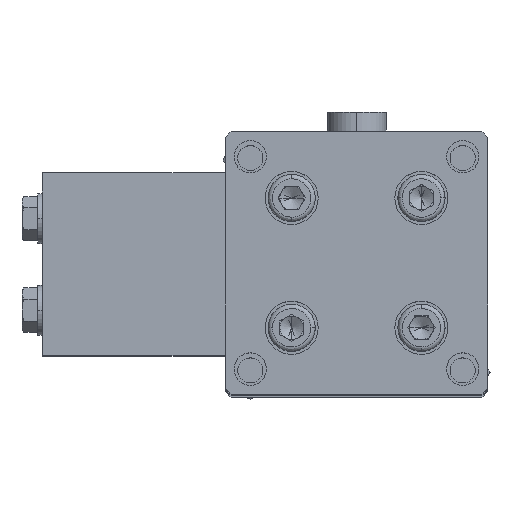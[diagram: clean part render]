
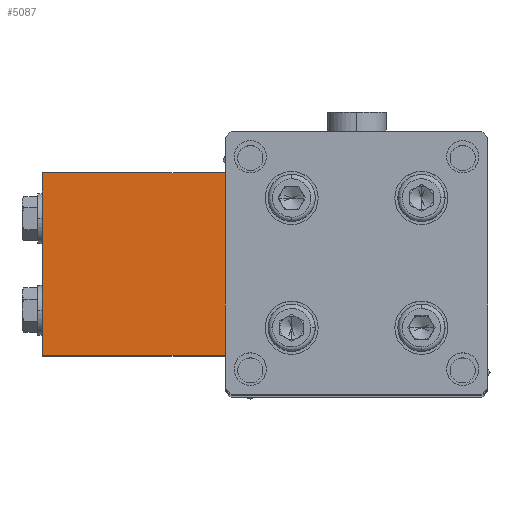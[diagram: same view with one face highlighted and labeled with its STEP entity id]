
A CAD part, top view. The second image highlights one B-rep face of the part: STEP entity #5087.
In plain terms, the highlighted planar face has unit normal (0, 0, 1).
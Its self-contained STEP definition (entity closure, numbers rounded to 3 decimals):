
#89 = EDGE_CURVE ( 'NONE', #4328, #10504, #2079, .T. ) ;
#575 = LINE ( 'NONE', #6343, #10785 ) ;
#2038 = ORIENTED_EDGE ( 'NONE', *, *, #2711, .F. ) ;
#2079 = LINE ( 'NONE', #11935, #6903 ) ;
#2207 = ORIENTED_EDGE ( 'NONE', *, *, #7532, .T. ) ;
#2711 = EDGE_CURVE ( 'NONE', #8956, #3441, #12111, .T. ) ;
#2800 = ORIENTED_EDGE ( 'NONE', *, *, #89, .F. ) ;
#2953 = DIRECTION ( 'NONE',  ( -1., 0., 0. ) ) ;
#3264 = EDGE_CURVE ( 'NONE', #10504, #8956, #575, .T. ) ;
#3441 = VERTEX_POINT ( 'NONE', #12387 ) ;
#4328 = VERTEX_POINT ( 'NONE', #11803 ) ;
#5087 = ADVANCED_FACE ( 'NONE', ( #9394 ), #7758, .F. ) ;
#6236 = CARTESIAN_POINT ( 'NONE',  ( -75.5, 31., -261.4 ) ) ;
#6343 = CARTESIAN_POINT ( 'NONE',  ( -106.5, 0., -261.4 ) ) ;
#6903 = VECTOR ( 'NONE', #12016, 1000. ) ;
#6994 = VECTOR ( 'NONE', #11067, 1000. ) ;
#7532 = EDGE_CURVE ( 'NONE', #4328, #3441, #7971, .T. ) ;
#7680 = VECTOR ( 'NONE', #10907, 1000. ) ;
#7758 = PLANE ( 'NONE',  #11082 ) ;
#7971 = LINE ( 'NONE', #10569, #7680 ) ;
#8720 = CARTESIAN_POINT ( 'NONE',  ( -106.5, 31., -261.4 ) ) ;
#8956 = VERTEX_POINT ( 'NONE', #8720 ) ;
#9394 = FACE_OUTER_BOUND ( 'NONE', #11096, .T. ) ;
#9626 = DIRECTION ( 'NONE',  ( 0., 0., -1. ) ) ;
#9664 = CARTESIAN_POINT ( 'NONE',  ( -44.5, -31., -261.4 ) ) ;
#10504 = VERTEX_POINT ( 'NONE', #10934 ) ;
#10569 = CARTESIAN_POINT ( 'NONE',  ( -44.5, 0., -261.4 ) ) ;
#10785 = VECTOR ( 'NONE', #12098, 1000. ) ;
#10907 = DIRECTION ( 'NONE',  ( 0., 1., 0. ) ) ;
#10934 = CARTESIAN_POINT ( 'NONE',  ( -106.5, -31., -261.4 ) ) ;
#11067 = DIRECTION ( 'NONE',  ( 1., 0., 0. ) ) ;
#11082 = AXIS2_PLACEMENT_3D ( 'NONE', #9664, #9626, #2953 ) ;
#11096 = EDGE_LOOP ( 'NONE', ( #2038, #11806, #2800, #2207 ) ) ;
#11803 = CARTESIAN_POINT ( 'NONE',  ( -44.5, -31., -261.4 ) ) ;
#11806 = ORIENTED_EDGE ( 'NONE', *, *, #3264, .F. ) ;
#11935 = CARTESIAN_POINT ( 'NONE',  ( -75.5, -31., -261.4 ) ) ;
#12016 = DIRECTION ( 'NONE',  ( -1., 0., 0. ) ) ;
#12098 = DIRECTION ( 'NONE',  ( 0., 1., 0. ) ) ;
#12111 = LINE ( 'NONE', #6236, #6994 ) ;
#12387 = CARTESIAN_POINT ( 'NONE',  ( -44.5, 31., -261.4 ) ) ;
